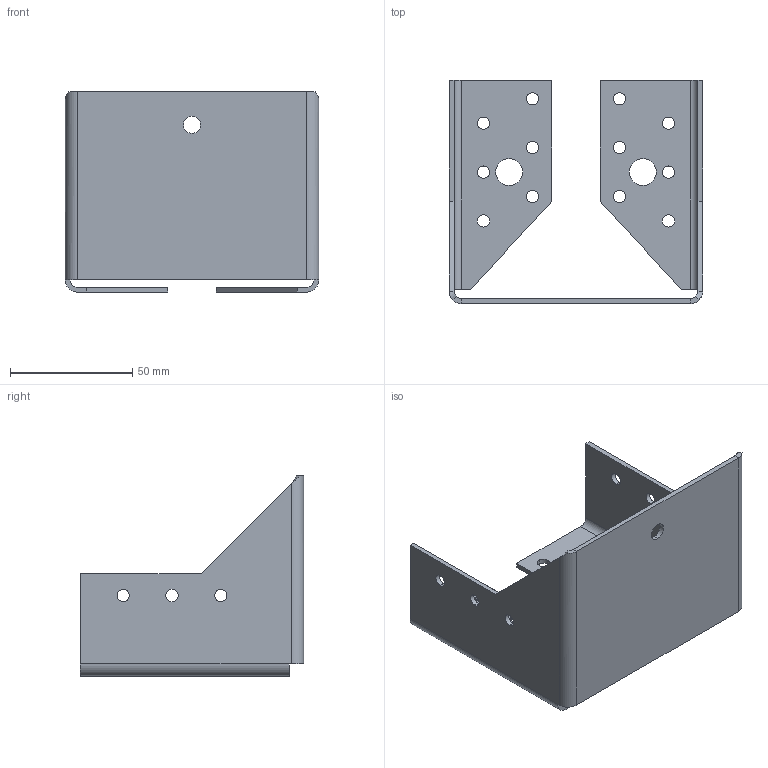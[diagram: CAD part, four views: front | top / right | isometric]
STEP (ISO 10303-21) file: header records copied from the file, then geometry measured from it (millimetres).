
FILE_DESCRIPTION (( 'STEP AP203' ), '1' );
FILE_NAME ('30644IKO.STEP', '2020-10-19T11:44:40', ( '' ), ( '' ), 'SwSTEP 2.0', 'SolidWorks 2013', '' );
FILE_SCHEMA (( 'CONFIG_CONTROL_DESIGN' ));
Length unit declared in the file: millimetre
Products named in the file (1): 30644IKO
Bounding box: 103.72 x 91.36 x 82 mm (x, y, z)
Volume: 43087.3 mm3; surface area: 45430.5 mm2
Topology: 1 solids, 1 shells, 82 faces, 220 edges, 140 vertices
Faces by surface type: cylinder 50, plane 30, bspline 2
Entity records: 2773 total; most frequent: CARTESIAN_POINT 493, DIRECTION 474, ORIENTED_EDGE 440, EDGE_CURVE 220, AXIS2_PLACEMENT_3D 181, VERTEX_POINT 140, EDGE_LOOP 124, VECTOR 112
